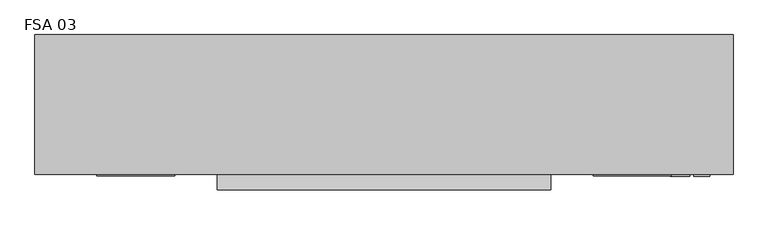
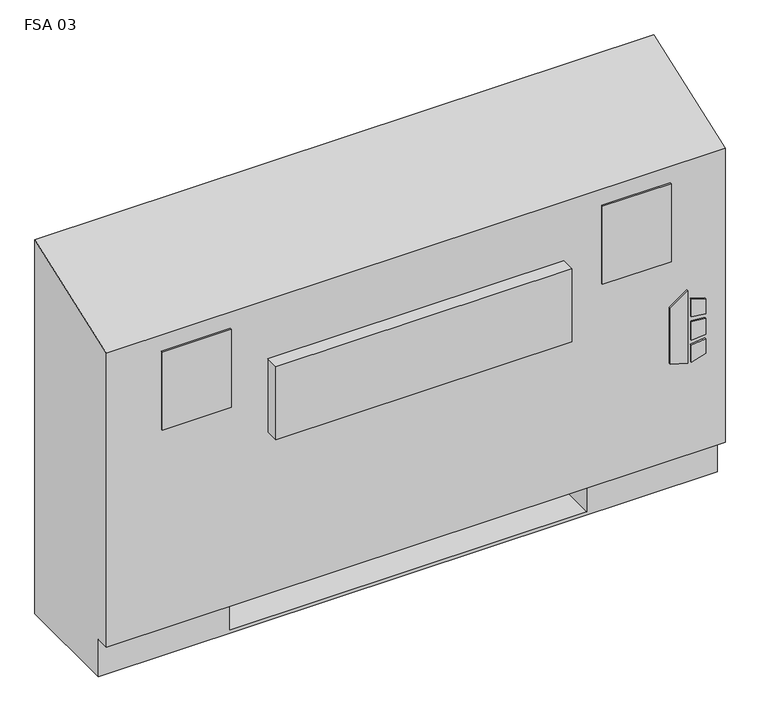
"""IFC4 building model written with IfcOpenShell, lengths in millimetres: proxy geometry, Vertical_Fan_Coil_Unit_-_FSA_-_IEC_-_2-Pipe_FS-FR_RH_2022 : FSA 03."""

from ifc_helpers import new_model, si_unit, point, frame, frame_2d, origin, place, context, project, spatial, polyline, circle_curve, trimmed, segment, composite_curve, outline, extrude, source, transform, mapped, element, save
from ifc_brep_helpers import plane_surface, revolved_surface, advanced_brep


def fsa_03_0998f7d8(model_context):
    return source(origin(), model_context, "Body", "SolidModel", [
        extrude(outline(polyline([(263.9480703, 620.7868862), (254.0, 652.9602728), (396.1709244, 652.9602728), (373.1489183, 620.7868862), (263.9480703, 620.7868862)])), frame((0.0, 12.7, 0.0), z_axis=(0.0, 1.0, 0.0), x_axis=(0.0, 0.0, 1.0)), (0.0, 0.0, 1.0), 3.175),
        extrude(outline(polyline([(342.9473557, 659.7186058), (339.7449632, 685.8), (368.9738042, 685.8), (377.0382193, 659.7186058), (342.9473557, 659.7186058)])), frame((0.0, 12.7, 0.0), z_axis=(0.0, 1.0, 0.0), x_axis=(0.0, 0.0, 1.0)), (0.0, 0.0, 1.0), 3.175),
        extrude(outline(polyline([(291.0838288, 685.8), (287.4183279, 659.7186058), (254.0, 659.7186058), (262.6342372, 685.8), (291.0838288, 685.8)])), frame((0.0, 12.7, 0.0), z_axis=(0.0, 1.0, 0.0), x_axis=(0.0, 0.0, 1.0)), (0.0, 0.0, 1.0), 3.175),
        extrude(outline(polyline([(330.3989903, 685.8), (332.6808166, 659.7186058), (296.7432681, 659.7186058), (299.4845331, 685.8), (330.3989903, 685.8)])), frame((0.0, 12.7, 0.0), z_axis=(0.0, 1.0, 0.0), x_axis=(0.0, 0.0, 1.0)), (0.0, 0.0, 1.0), 3.175),
        extrude(outline(polyline([(-298.45, 81.534), (-298.45, 223.266), (-177.8, 223.266), (-177.8, 81.534), (-298.45, 81.534)])), frame((0.0, 0.0, 327.025), z_axis=(0.0, 0.0, 1.0), x_axis=(1.0, 0.0, 0.0)), (0.0, 0.0, 1.0), 260.35),
        extrude(outline(polyline([(-190.5, 12.7), (-317.5, 12.7), (-317.5, 15.875), (-190.5, 15.875), (-190.5, 12.7)])), frame((0.0, 0.0, 463.55), z_axis=(0.0, 0.0, 1.0), x_axis=(1.0, 0.0, 0.0)), (0.0, 0.0, 1.0), 152.4),
        extrude(outline(polyline([(622.3, 12.7), (495.3, 12.7), (495.3, 15.875), (622.3, 15.875), (622.3, 12.7)])), frame((0.0, 0.0, 463.55), z_axis=(0.0, 0.0, 1.0), x_axis=(1.0, 0.0, 0.0)), (0.0, 0.0, 1.0), 152.4),
        extrude(outline(composite_curve([segment(trimmed(circle_curve(frame_2d((546.1, 130.175)), 9.525), [point((536.575, 130.175))], [point((555.625, 130.175))], False, "CARTESIAN"), True, "CONTINUOUS"), segment(trimmed(circle_curve(frame_2d((546.1, 130.175)), 9.525), [point((555.625, 130.175))], [point((536.575, 130.175))], False, "CARTESIAN"), True, "CONTINUOUS")], self_intersect=False)), frame((0.0, 0.0, 101.6), z_axis=(0.0, 0.0, 1.0), x_axis=(1.0, 0.0, 0.0)), (0.0, 0.0, 1.0), 25.4),
        extrude(outline(polyline([(647.7, 196.85), (647.7, 63.5), (482.6, 63.5), (482.6, 196.85), (647.7, 196.85)])), frame((0.0, 0.0, 127.0), z_axis=(0.0, 0.0, 1.0), x_axis=(1.0, 0.0, 0.0)), (0.0, 0.0, 1.0), 50.8),
        extrude(outline(polyline([(425.45, -9.525), (-120.65, -9.525), (-120.65, 15.875), (425.45, 15.875), (425.45, -9.525)])), frame((0.0, 0.0, 389.3009245), z_axis=(0.0, 0.0, 1.0), x_axis=(1.0, 0.0, 0.0)), (0.0, 0.0, 1.0), 142.875),
        extrude(outline(composite_curve([segment(trimmed(circle_curve(frame_2d((109.347, 456.819)), 7.9375), [point((109.347, 464.7565))], [point((109.347, 448.8815))], False, "CARTESIAN"), True, "CONTINUOUS"), segment(trimmed(circle_curve(frame_2d((109.347, 456.819)), 7.9375), [point((109.347, 448.8815))], [point((109.347, 464.7565))], False, "CARTESIAN"), True, "CONTINUOUS")], self_intersect=False)), frame((482.6, 0.0, 0.0), z_axis=(1.0, 0.0, 0.0), x_axis=(0.0, 1.0, 0.0)), (0.0, 0.0, 1.0), 50.8),
        extrude(outline(composite_curve([segment(trimmed(circle_curve(frame_2d((157.4546, 429.4632)), 7.9375), [point((157.4546, 437.4007))], [point((157.4546, 421.5257))], False, "CARTESIAN"), True, "CONTINUOUS"), segment(trimmed(circle_curve(frame_2d((157.4546, 429.4632)), 7.9375), [point((157.4546, 421.5257))], [point((157.4546, 437.4007))], False, "CARTESIAN"), True, "CONTINUOUS")], self_intersect=False)), frame((482.6, 0.0, 0.0), z_axis=(1.0, 0.0, 0.0), x_axis=(0.0, 1.0, 0.0)), (0.0, 0.0, 1.0), 50.8),
        advanced_brep(
        [(-419.1, 244.475, 0.0), (723.9, 244.475, 0.0), (723.9, 41.275, 0.0), (-419.1, 41.275, 0.0), (-419.1, 244.475, 730.25), (723.9, 244.475, 730.25), (482.6, 244.475, 73.025), (711.2, 244.475, 73.025), (711.2, 244.475, 654.05), (482.6, 244.475, 654.05), (482.6, 244.475, 414.8650565), (511.175, 244.475, 414.8650565), (511.175, 244.475, 385.2349435), (482.6, 244.475, 385.2349435), (482.6, 244.475, 287.3375), (511.175, 244.475, 287.3375), (511.175, 244.475, 258.7625), (482.6, 244.475, 258.7625), (482.6, 244.475, 141.2875), (511.175, 244.475, 141.2875), (511.175, 244.475, 112.7125), (482.6, 244.475, 112.7125), (-177.8, 244.475, 654.05), (-406.4, 244.475, 654.05), (-406.4, 244.475, 73.025), (-177.8, 244.475, 73.025), (-177.8, 244.475, 112.7125), (-206.375, 244.475, 112.7125), (-206.375, 244.475, 141.2875), (-177.8, 244.475, 141.2875), (-177.8, 244.475, 258.7625), (-206.375, 244.475, 258.7625), (-206.375, 244.475, 287.3375), (-177.8, 244.475, 287.3375), (-177.8, 244.475, 385.2349435), (-206.375, 244.475, 385.2349435), (-206.375, 244.475, 414.8650565), (-177.8, 244.475, 414.8650565), (500.8626, 244.475, 127.0), (489.7374, 244.475, 127.0), (500.8626, 244.475, 400.05), (489.7374, 244.475, 400.05), (500.8626, 244.475, 273.05), (489.7374, 244.475, 273.05), (-184.9374, 244.475, 127.0), (-196.0626, 244.475, 127.0), (-184.9374, 244.475, 273.05), (-196.0626, 244.475, 273.05), (-184.9374, 244.475, 400.05), (-196.0626, 244.475, 400.05), (-419.1, 41.275, 73.025), (-419.1, 15.875, 73.025), (-419.1, 15.875, 647.7), (723.9, 15.875, 73.025), (723.9, 15.875, 647.7), (723.9, 41.275, 73.025), (-177.8, 41.275, 73.025), (-177.8, 225.425, 73.025), (482.6, 225.425, 73.025), (482.6, 41.275, 73.025), (482.6, 41.275, 6.35), (-177.8, 41.275, 6.35), (482.6, 41.275, 654.05), (711.2, 41.275, 654.05), (711.2, 41.275, 73.025), (482.6, 41.275, 73.025), (-177.8, 41.275, 654.05), (-177.8, 41.275, 73.025), (-406.4, 41.275, 73.025), (-406.4, 41.275, 654.05), (482.6, 225.425, 73.025), (482.6, 238.125, 112.7125), (482.6, 238.125, 141.2875), (482.6, 238.125, 258.7625), (482.6, 238.125, 287.3375), (482.6, 238.125, 385.2349435), (482.6, 238.125, 414.8650565), (-177.8, 225.425, 73.025), (-177.8, 238.125, 414.8650565), (-177.8, 238.125, 385.2349435), (-177.8, 238.125, 287.3375), (-177.8, 238.125, 258.7625), (-177.8, 238.125, 141.2875), (-177.8, 238.125, 112.7125), (-177.8, 225.425, 6.35), (482.6, 225.425, 6.35), (511.175, 238.125, 112.7125), (511.175, 238.125, 141.2875), (489.7374, 238.125, 127.0), (500.8626, 238.125, 127.0), (511.175, 238.125, 258.7625), (511.175, 238.125, 287.3375), (489.7374, 238.125, 273.05), (500.8626, 238.125, 273.05), (511.175, 238.125, 385.2349435), (511.175, 238.125, 414.8650565), (489.7374, 238.125, 400.05), (500.8626, 238.125, 400.05), (-206.375, 238.125, 141.2875), (-206.375, 238.125, 112.7125), (-196.0626, 238.125, 127.0), (-184.9374, 238.125, 127.0), (-206.375, 238.125, 287.3375), (-206.375, 238.125, 258.7625), (-196.0626, 238.125, 273.05), (-184.9374, 238.125, 273.05), (-206.375, 238.125, 414.8650565), (-206.375, 238.125, 385.2349435), (-196.0626, 238.125, 400.05), (-184.9374, 238.125, 400.05)],
        [
            (0, 1),
            (1, 2),
            (2, 3),
            (3, 0),
            (0, 4),
            (4, 5),
            (5, 1),
            (6, 7),
            (7, 8),
            (8, 9),
            (9, 10),
            (10, 11),
            (11, 12),
            (12, 13),
            (13, 14),
            (14, 15),
            (15, 16),
            (16, 17),
            (17, 18),
            (18, 19),
            (19, 20),
            (20, 21),
            (21, 6),
            (22, 23),
            (23, 24),
            (24, 25),
            (25, 26),
            (26, 27),
            (27, 28),
            (28, 29),
            (29, 30),
            (30, 31),
            (31, 32),
            (32, 33),
            (33, 34),
            (34, 35),
            (35, 36),
            (36, 37),
            (37, 22),
            (38, 39, circle_curve(frame((495.3, 244.475, 127.0), z_axis=(0.0, -1.0, 0.0), x_axis=(-1.0, 0.0, 0.0)), 5.5626)),
            (39, 38, circle_curve(frame((495.3, 244.475, 127.0), z_axis=(0.0, -1.0, 0.0), x_axis=(-1.0, 0.0, 0.0)), 5.5626)),
            (40, 41, circle_curve(frame((495.3, 244.475, 400.05), z_axis=(0.0, -1.0, 0.0), x_axis=(-1.0, 0.0, 0.0)), 5.5626)),
            (41, 40, circle_curve(frame((495.3, 244.475, 400.05), z_axis=(0.0, -1.0, 0.0), x_axis=(-1.0, 0.0, 0.0)), 5.5626)),
            (42, 43, circle_curve(frame((495.3, 244.475, 273.05), z_axis=(0.0, -1.0, 0.0), x_axis=(-1.0, 0.0, 0.0)), 5.5626)),
            (43, 42, circle_curve(frame((495.3, 244.475, 273.05), z_axis=(0.0, -1.0, 0.0), x_axis=(-1.0, 0.0, 0.0)), 5.5626)),
            (44, 45, circle_curve(frame((-190.5, 244.475, 127.0), z_axis=(0.0, -1.0, 0.0), x_axis=(-1.0, 0.0, 0.0)), 5.5626)),
            (45, 44, circle_curve(frame((-190.5, 244.475, 127.0), z_axis=(0.0, -1.0, 0.0), x_axis=(-1.0, 0.0, 0.0)), 5.5626)),
            (46, 47, circle_curve(frame((-190.5, 244.475, 273.05), z_axis=(0.0, -1.0, 0.0), x_axis=(-1.0, 0.0, 0.0)), 5.5626)),
            (47, 46, circle_curve(frame((-190.5, 244.475, 273.05), z_axis=(0.0, -1.0, 0.0), x_axis=(-1.0, 0.0, 0.0)), 5.5626)),
            (48, 49, circle_curve(frame((-190.5, 244.475, 400.05), z_axis=(0.0, -1.0, 0.0), x_axis=(-1.0, 0.0, 0.0)), 5.5626)),
            (49, 48, circle_curve(frame((-190.5, 244.475, 400.05), z_axis=(0.0, -1.0, 0.0), x_axis=(-1.0, 0.0, 0.0)), 5.5626)),
            (3, 50),
            (50, 51),
            (51, 52),
            (52, 4),
            (51, 53),
            (53, 54),
            (54, 52),
            (5, 54),
            (53, 55),
            (55, 2),
            (50, 56),
            (56, 57),
            (57, 58),
            (58, 59),
            (59, 55),
            (59, 60),
            (60, 61),
            (61, 56),
            (62, 63),
            (63, 64),
            (64, 65),
            (65, 62),
            (66, 67),
            (67, 68),
            (68, 69),
            (69, 66),
            (65, 70),
            (70, 6),
            (21, 71),
            (71, 72),
            (72, 18),
            (17, 73),
            (73, 74),
            (74, 14),
            (13, 75),
            (75, 76),
            (76, 10),
            (9, 62),
            (64, 7),
            (63, 8),
            (69, 23),
            (22, 66),
            (68, 24),
            (67, 77),
            (77, 25),
            (37, 78),
            (78, 79),
            (79, 34),
            (33, 80),
            (80, 81),
            (81, 30),
            (29, 82),
            (82, 83),
            (83, 26),
            (57, 84),
            (84, 85),
            (85, 58),
            (85, 60),
            (84, 61),
            (71, 86),
            (86, 87),
            (87, 72),
            (88, 89, circle_curve(frame((495.3, 238.125, 127.0), z_axis=(0.0, 1.0, 0.0), x_axis=(-1.0, 0.0, 0.0)), 5.5626)),
            (89, 88, circle_curve(frame((495.3, 238.125, 127.0), z_axis=(0.0, 1.0, 0.0), x_axis=(-1.0, 0.0, 0.0)), 5.5626)),
            (73, 90),
            (90, 91),
            (91, 74),
            (92, 93, circle_curve(frame((495.3, 238.125, 273.05), z_axis=(0.0, 1.0, 0.0), x_axis=(-1.0, 0.0, 0.0)), 5.5626)),
            (93, 92, circle_curve(frame((495.3, 238.125, 273.05), z_axis=(0.0, 1.0, 0.0), x_axis=(-1.0, 0.0, 0.0)), 5.5626)),
            (75, 94),
            (94, 95),
            (95, 76),
            (96, 97, circle_curve(frame((495.3, 238.125, 400.05), z_axis=(0.0, 1.0, 0.0), x_axis=(-1.0, 0.0, 0.0)), 5.5626)),
            (97, 96, circle_curve(frame((495.3, 238.125, 400.05), z_axis=(0.0, 1.0, 0.0), x_axis=(-1.0, 0.0, 0.0)), 5.5626)),
            (98, 99),
            (99, 83),
            (82, 98),
            (100, 101, circle_curve(frame((-190.5, 238.125, 127.0), z_axis=(0.0, 1.0, 0.0), x_axis=(-1.0, 0.0, 0.0)), 5.5626)),
            (101, 100, circle_curve(frame((-190.5, 238.125, 127.0), z_axis=(0.0, 1.0, 0.0), x_axis=(-1.0, 0.0, 0.0)), 5.5626)),
            (102, 103),
            (103, 81),
            (80, 102),
            (104, 105, circle_curve(frame((-190.5, 238.125, 273.05), z_axis=(0.0, 1.0, 0.0), x_axis=(-1.0, 0.0, 0.0)), 5.5626)),
            (105, 104, circle_curve(frame((-190.5, 238.125, 273.05), z_axis=(0.0, 1.0, 0.0), x_axis=(-1.0, 0.0, 0.0)), 5.5626)),
            (106, 107),
            (107, 79),
            (78, 106),
            (108, 109, circle_curve(frame((-190.5, 238.125, 400.05), z_axis=(0.0, 1.0, 0.0), x_axis=(-1.0, 0.0, 0.0)), 5.5626)),
            (109, 108, circle_curve(frame((-190.5, 238.125, 400.05), z_axis=(0.0, 1.0, 0.0), x_axis=(-1.0, 0.0, 0.0)), 5.5626)),
            (87, 19),
            (86, 20),
            (91, 15),
            (90, 16),
            (95, 11),
            (94, 12),
            (28, 98),
            (99, 27),
            (32, 102),
            (103, 31),
            (36, 106),
            (107, 35),
            (88, 39),
            (38, 89),
            (96, 41),
            (40, 97),
            (92, 43),
            (42, 93),
            (100, 45),
            (44, 101),
            (104, 47),
            (46, 105),
            (108, 49),
            (48, 109),
        ],
        [
            plane_surface(frame((-419.1, 244.475, 0.0), z_axis=(0.0, 0.0, -1.0), x_axis=(1.0, 0.0, 0.0))),
            plane_surface(frame((723.9, 244.475, 730.25), z_axis=(0.0, 1.0, 0.0), x_axis=(0.0, 0.0, -1.0))),
            plane_surface(frame((-419.1, 244.475, 730.25), z_axis=(-1.0, 0.0, 0.0), x_axis=(0.0, 0.0, -1.0))),
            plane_surface(frame((-419.1, 15.875, 730.25), z_axis=(0.0, -1.0, 0.0), x_axis=(0.0, 0.0, -1.0))),
            plane_surface(frame((723.9, 15.875, 730.25), z_axis=(1.0, 0.0, 0.0), x_axis=(0.0, 0.0, -1.0))),
            plane_surface(frame((-419.1, 15.875, 73.025), z_axis=(0.0, 0.0, -1.0), x_axis=(1.0, 0.0, 0.0))),
            plane_surface(frame((-419.1, 41.275, 73.025), z_axis=(0.0, -1.0, 0.0), x_axis=(1.0, 0.0, 0.0))),
            plane_surface(frame((482.6, 41.275, 654.05), z_axis=(0.0, 1.0, 0.0), x_axis=(0.0, 0.0, -1.0))),
            plane_surface(frame((482.6, 41.275, 654.05), z_axis=(1.0, 0.0, 0.0), x_axis=(0.0, 1.0, 0.0))),
            plane_surface(frame((482.6, 41.275, 73.025), z_axis=(0.0, 0.0, 1.0), x_axis=(0.0, 1.0, 0.0))),
            plane_surface(frame((711.2, 41.275, 73.025), z_axis=(-1.0, 0.0, 0.0), x_axis=(0.0, 1.0, 0.0))),
            plane_surface(frame((711.2, 41.275, 654.05), z_axis=(0.0, 0.0, -1.0), x_axis=(0.0, 1.0, 0.0))),
            plane_surface(frame((-177.8, 41.275, 654.05), z_axis=(0.0, 0.0, -1.0), x_axis=(0.0, 1.0, 0.0))),
            plane_surface(frame((-406.4, 41.275, 654.05), z_axis=(1.0, 0.0, 0.0), x_axis=(0.0, 1.0, 0.0))),
            plane_surface(frame((-406.4, 41.275, 73.025), z_axis=(0.0, 0.0, 1.0), x_axis=(0.0, 1.0, 0.0))),
            plane_surface(frame((-177.8, 41.275, 73.025), z_axis=(-1.0, 0.0, 0.0), x_axis=(0.0, 1.0, 0.0))),
            plane_surface(frame((482.6, 225.425, 73.025), z_axis=(0.0, -1.0, 0.0), x_axis=(0.0, 0.0, -1.0))),
            plane_surface(frame((482.6, 225.425, 73.025), z_axis=(-1.0, 0.0, 0.0), x_axis=(0.0, -1.0, 0.0))),
            plane_surface(frame((482.6, 225.425, 6.35), z_axis=(0.0, 0.0, 1.0), x_axis=(0.0, -1.0, 0.0))),
            plane_surface(frame((-177.8, 225.425, 6.35), z_axis=(1.0, 0.0, 0.0), x_axis=(0.0, -1.0, 0.0))),
            plane_surface(frame((511.175, 238.125, 141.2875), z_axis=(0.0, -1.0, 0.0), x_axis=(-1.0, 0.0, 0.0))),
            plane_surface(frame((482.6, 244.475, 141.2875), z_axis=(0.0, 0.0, 1.0), x_axis=(0.0, -1.0, 0.0))),
            plane_surface(frame((511.175, 244.475, 141.2875), z_axis=(1.0, 0.0, 0.0), x_axis=(0.0, -1.0, 0.0))),
            plane_surface(frame((511.175, 244.475, 112.7125), z_axis=(0.0, 0.0, -1.0), x_axis=(0.0, -1.0, 0.0))),
            plane_surface(frame((482.6, 244.475, 287.3375), z_axis=(0.0, 0.0, 1.0), x_axis=(0.0, -1.0, 0.0))),
            plane_surface(frame((511.175, 244.475, 287.3375), z_axis=(1.0, 0.0, 0.0), x_axis=(0.0, -1.0, 0.0))),
            plane_surface(frame((511.175, 244.475, 258.7625), z_axis=(0.0, 0.0, -1.0), x_axis=(0.0, -1.0, 0.0))),
            plane_surface(frame((482.6, 244.475, 414.8650565), z_axis=(0.0, 0.0, 1.0), x_axis=(0.0, -1.0, 0.0))),
            plane_surface(frame((511.175, 244.475, 414.8650565), z_axis=(1.0, 0.0, 0.0), x_axis=(0.0, -1.0, 0.0))),
            plane_surface(frame((511.175, 244.475, 385.2349435), z_axis=(0.0, 0.0, -1.0), x_axis=(0.0, -1.0, 0.0))),
            plane_surface(frame((-206.375, 244.475, 141.2875), z_axis=(0.0, 0.0, 1.0), x_axis=(0.0, -1.0, 0.0))),
            plane_surface(frame((-177.8, 244.475, 112.7125), z_axis=(0.0, 0.0, -1.0), x_axis=(0.0, -1.0, 0.0))),
            plane_surface(frame((-206.375, 244.475, 112.7125), z_axis=(-1.0, 0.0, 0.0), x_axis=(0.0, -1.0, 0.0))),
            plane_surface(frame((-206.375, 244.475, 287.3375), z_axis=(0.0, 0.0, 1.0), x_axis=(0.0, -1.0, 0.0))),
            plane_surface(frame((-177.8, 244.475, 258.7625), z_axis=(0.0, 0.0, -1.0), x_axis=(0.0, -1.0, 0.0))),
            plane_surface(frame((-206.375, 244.475, 258.7625), z_axis=(-1.0, 0.0, 0.0), x_axis=(0.0, -1.0, 0.0))),
            plane_surface(frame((-206.375, 244.475, 414.8650565), z_axis=(0.0, 0.0, 1.0), x_axis=(0.0, -1.0, 0.0))),
            plane_surface(frame((-177.8, 244.475, 385.2349435), z_axis=(0.0, 0.0, -1.0), x_axis=(0.0, -1.0, 0.0))),
            plane_surface(frame((-206.375, 244.475, 385.2349435), z_axis=(-1.0, 0.0, 0.0), x_axis=(0.0, -1.0, 0.0))),
            revolved_surface(polyline([(489.73740000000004, 238.125, 127.0), (489.73740000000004, 244.475, 127.0)]), (495.3, 244.475, 127.0), (0.0, -1.0, 0.0)),
            revolved_surface(polyline([(489.73740000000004, 238.125, 400.05), (489.73740000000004, 244.475, 400.05)]), (495.3, 244.475, 400.05), (0.0, -1.0, 0.0)),
            revolved_surface(polyline([(489.73740000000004, 238.125, 273.05), (489.73740000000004, 244.475, 273.05)]), (495.3, 244.475, 273.05), (0.0, -1.0, 0.0)),
            revolved_surface(polyline([(-196.0626, 238.125, 127.0), (-196.0626, 244.475, 127.0)]), (-190.5, 244.475, 127.0), (0.0, -1.0, 0.0)),
            revolved_surface(polyline([(-196.0626, 238.125, 273.05), (-196.0626, 244.475, 273.05)]), (-190.5, 244.475, 273.05), (0.0, -1.0, 0.0)),
            revolved_surface(polyline([(-196.0626, 238.125, 400.05), (-196.0626, 244.475, 400.05)]), (-190.5, 244.475, 400.05), (0.0, -1.0, 0.0)),
            plane_surface(frame((-419.1, 244.475, 730.25), z_axis=(0.0, -0.33964446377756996, 0.9405538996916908), x_axis=(1.0, 0.0, 0.0))),
        ],
        [
            (0, [[1, 2, 3, 4]]),
            (1, [[-1, 5, 6, 7], [8, 9, 10, 11, 12, 13, 14, 15, 16, 17, 18, 19, 20, 21, 22, 23], [24, 25, 26, 27, 28, 29, 30, 31, 32, 33, 34, 35, 36, 37, 38, 39], [40, 41], [42, 43], [44, 45], [46, 47], [48, 49], [50, 51]]),
            (2, [[-5, -4, 52, 53, 54, 55]]),
            (3, [[56, 57, 58, -54]]),
            (4, [[-7, 59, -57, 60, 61, -2]]),
            (5, [[-53, 62, 63, 64, 65, 66, -60, -56]]),
            (6, [[-3, -61, -66, 67, 68, 69, -62, -52]]),
            (7, [[70, 71, 72, 73]]),
            (7, [[74, 75, 76, 77]]),
            (8, [[-73, 78, 79, -23, 80, 81, 82, -19, 83, 84, 85, -15, 86, 87, 88, -11, 89]]),
            (9, [[-72, 90, -8, -79, -78]]),
            (10, [[-71, 91, -9, -90]]),
            (11, [[-70, -89, -10, -91]]),
            (12, [[-77, 92, -24, 93]]),
            (13, [[-76, 94, -25, -92]]),
            (14, [[-75, 95, 96, -26, -94]]),
            (15, [[-74, -93, -39, 97, 98, 99, -35, 100, 101, 102, -31, 103, 104, 105, -27, -96, -95]]),
            (16, [[-64, 106, 107, 108]]),
            (17, [[-108, 109, -67, -65]]),
            (18, [[-107, 110, -68, -109]]),
            (19, [[-106, -63, -69, -110]]),
            (20, [[111, 112, 113, -81], [114, 115]]),
            (20, [[116, 117, 118, -84], [119, 120]]),
            (20, [[121, 122, 123, -87], [124, 125]]),
            (20, [[126, 127, -104, 128], [129, 130]]),
            (20, [[131, 132, -101, 133], [134, 135]]),
            (20, [[136, 137, -98, 138], [139, 140]]),
            (21, [[-113, 141, -20, -82]]),
            (22, [[-112, 142, -21, -141]]),
            (23, [[-111, -80, -22, -142]]),
            (24, [[-118, 143, -16, -85]]),
            (25, [[-117, 144, -17, -143]]),
            (26, [[-116, -83, -18, -144]]),
            (27, [[-123, 145, -12, -88]]),
            (28, [[-122, 146, -13, -145]]),
            (29, [[-121, -86, -14, -146]]),
            (30, [[-128, -103, -30, 147]]),
            (31, [[-127, 148, -28, -105]]),
            (32, [[-126, -147, -29, -148]]),
            (33, [[-133, -100, -34, 149]]),
            (34, [[-132, 150, -32, -102]]),
            (35, [[-131, -149, -33, -150]]),
            (36, [[-138, -97, -38, 151]]),
            (37, [[-137, 152, -36, -99]]),
            (38, [[-136, -151, -37, -152]]),
            (39, [[153, -40, 154, -114]]),
            (39, [[-153, -115, -154, -41]]),
            (40, [[155, -42, 156, -124]]),
            (40, [[-155, -125, -156, -43]]),
            (41, [[157, -44, 158, -119]]),
            (41, [[-157, -120, -158, -45]]),
            (42, [[159, -46, 160, -129]]),
            (42, [[-159, -130, -160, -47]]),
            (43, [[161, -48, 162, -134]]),
            (43, [[-161, -135, -162, -49]]),
            (44, [[163, -50, 164, -139]]),
            (44, [[-163, -140, -164, -51]]),
            (45, [[-6, -55, -58, -59]]),
        ],
    ),
    ])


if __name__ == "__main__":
    model = new_model("IFC4")
    model_context = context("Model", 3, world=origin())
    ifc_project = project(units=[si_unit("LENGTHUNIT", "METRE", prefix="MILLI")], contexts=[model_context])
    site = spatial("IfcSite", under=ifc_project)
    building = spatial("IfcBuilding", under=site)
    placement = place(None, origin())
    fsa_03_shape = fsa_03_0998f7d8(model_context)
    element("IfcBuildingElementProxy", 1, Name="Vertical_Fan_Coil_Unit_-_FSA_-_IEC_-_2-Pipe_FS-FR_RH_2022 : FSA 03", ObjectType="Vertical_Fan_Coil_Unit_-_FSA_-_IEC_-_2-Pipe_FS-FR_RH_2022 : FSA 03", at=placement, inside=building, context=model_context, shape_type="MappedRepresentation", body=[
        mapped(fsa_03_shape, transform((0.0, 0.0, 0.0), x_axis=(1.0, 0.0, 0.0), y_axis=(0.0, 1.0, 0.0), z_axis=(0.0, 0.0, 1.0))),
    ])
    save(model, "model.ifc")
